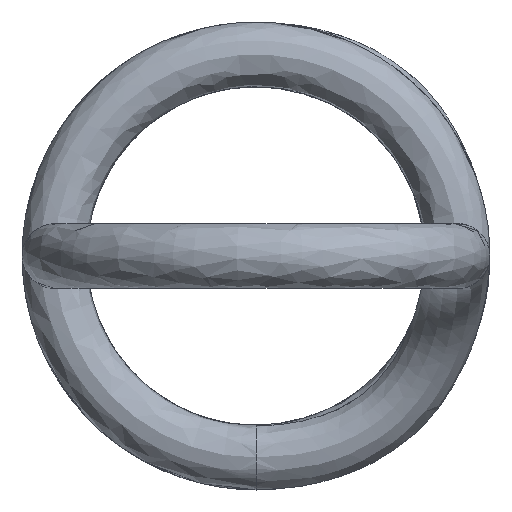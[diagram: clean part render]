
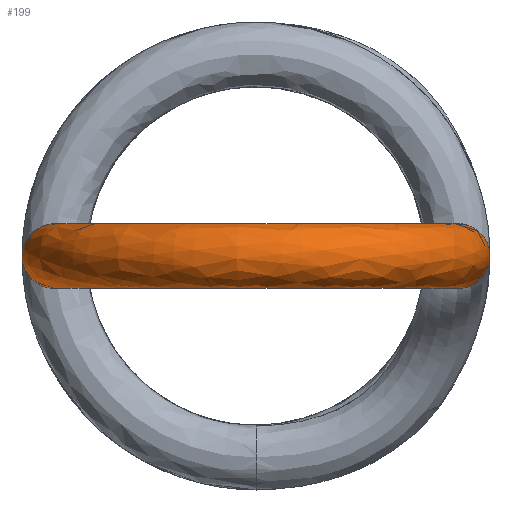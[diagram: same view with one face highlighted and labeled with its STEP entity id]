
A CAD part, front view. The second image highlights one B-rep face of the part: STEP entity #199.
In plain terms, the highlighted free-form (B-spline) face has degree [2, 2] with [9, 7] control points.
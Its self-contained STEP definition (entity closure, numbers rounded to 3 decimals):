
#15=(
BOUNDED_SURFACE()
B_SPLINE_SURFACE(2,2,((#828,#829,#830,#831,#832,#833,#834),(#835,#836,#837,
#838,#839,#840,#841),(#842,#843,#844,#845,#846,#847,#848),(#849,#850,#851,
#852,#853,#854,#855),(#856,#857,#858,#859,#860,#861,#862),(#863,#864,#865,
#866,#867,#868,#869),(#870,#871,#872,#873,#874,#875,#876),(#877,#878,#879,
#880,#881,#882,#883),(#884,#885,#886,#887,#888,#889,#890)),
 .UNSPECIFIED.,.T.,.F.,.F.)
B_SPLINE_SURFACE_WITH_KNOTS((3,2,2,2,3),(3,2,2,3),(0.,1.571,3.142,
4.712,6.283),(0.,1.101,2.202,
3.303),.UNSPECIFIED.)
GEOMETRIC_REPRESENTATION_ITEM()
RATIONAL_B_SPLINE_SURFACE(((1.,0.852,1.,0.852,1.,
0.852,1.),(0.707,0.603,0.707,
0.603,0.707,0.603,0.707),
(1.,0.852,1.,0.852,1.,0.852,1.),(0.707,
0.603,0.707,0.603,0.707,
0.603,0.707),(1.,0.852,1.,0.852,
1.,0.852,1.),(0.707,0.603,0.707,
0.603,0.707,0.603,0.707),
(1.,0.852,1.,0.852,1.,0.852,1.),(0.707,
0.603,0.707,0.603,0.707,
0.603,0.707),(1.,0.852,1.,0.852,
1.,0.852,1.)))
REPRESENTATION_ITEM('')
SURFACE()
);
#22=CIRCLE('',#234,1.25);
#23=CIRCLE('',#235,7.197);
#24=CIRCLE('',#236,1.25);
#37=FACE_OUTER_BOUND('',#48,.T.);
#48=EDGE_LOOP('',(#142,#143,#144,#145));
#85=VERTEX_POINT('',#759);
#88=VERTEX_POINT('',#891);
#106=EDGE_CURVE('',#85,#85,#22,.T.);
#109=EDGE_CURVE('',#85,#88,#23,.T.);
#110=EDGE_CURVE('',#88,#88,#24,.T.);
#142=ORIENTED_EDGE('',*,*,#106,.T.);
#143=ORIENTED_EDGE('',*,*,#109,.T.);
#144=ORIENTED_EDGE('',*,*,#110,.F.);
#145=ORIENTED_EDGE('',*,*,#109,.F.);
#199=ADVANCED_FACE('',(#37),#15,.T.);
#234=AXIS2_PLACEMENT_3D('',#770,#256,#257);
#235=AXIS2_PLACEMENT_3D('',#892,#258,#259);
#236=AXIS2_PLACEMENT_3D('',#893,#260,#261);
#256=DIRECTION('center_axis',(0.,-1.,0.));
#257=DIRECTION('ref_axis',(-0.443,0.,-0.897));
#258=DIRECTION('center_axis',(0.,0.,
-1.));
#259=DIRECTION('ref_axis',(1.,0.,0.));
#260=DIRECTION('center_axis',(0.161,0.987,0.));
#261=DIRECTION('ref_axis',(0.437,-0.071,-0.897));
#759=CARTESIAN_POINT('',(7.197,-27.55,-1.121));
#770=CARTESIAN_POINT('Origin',(7.75,-27.55,0.));
#828=CARTESIAN_POINT('Ctrl Pts',(7.197,-27.55,-1.121));
#829=CARTESIAN_POINT('Ctrl Pts',(7.197,-31.967,-1.121));
#830=CARTESIAN_POINT('Ctrl Pts',(3.258,-33.967,-1.121));
#831=CARTESIAN_POINT('Ctrl Pts',(-0.681,-35.967,-1.121));
#832=CARTESIAN_POINT('Ctrl Pts',(-4.247,-33.36,-1.121));
#833=CARTESIAN_POINT('Ctrl Pts',(-7.813,-30.753,-1.121));
#834=CARTESIAN_POINT('Ctrl Pts',(-7.103,-26.393,-1.121));
#835=CARTESIAN_POINT('Ctrl Pts',(8.318,-27.55,-1.674));
#836=CARTESIAN_POINT('Ctrl Pts',(8.318,-32.655,-1.674));
#837=CARTESIAN_POINT('Ctrl Pts',(3.765,-34.967,-1.674));
#838=CARTESIAN_POINT('Ctrl Pts',(-0.787,-37.278,-1.674));
#839=CARTESIAN_POINT('Ctrl Pts',(-4.909,-34.265,-1.674));
#840=CARTESIAN_POINT('Ctrl Pts',(-9.03,-31.252,-1.674));
#841=CARTESIAN_POINT('Ctrl Pts',(-8.21,-26.213,-1.674));
#842=CARTESIAN_POINT('Ctrl Pts',(8.871,-27.55,-0.553));
#843=CARTESIAN_POINT('Ctrl Pts',(8.871,-32.995,-0.553));
#844=CARTESIAN_POINT('Ctrl Pts',(4.016,-35.46,-0.553));
#845=CARTESIAN_POINT('Ctrl Pts',(-0.839,-37.925,-0.553));
#846=CARTESIAN_POINT('Ctrl Pts',(-5.235,-34.711,-0.553));
#847=CARTESIAN_POINT('Ctrl Pts',(-9.631,-31.498,-0.553));
#848=CARTESIAN_POINT('Ctrl Pts',(-8.756,-26.124,-0.553));
#849=CARTESIAN_POINT('Ctrl Pts',(9.424,-27.55,0.568));
#850=CARTESIAN_POINT('Ctrl Pts',(9.424,-33.335,0.568));
#851=CARTESIAN_POINT('Ctrl Pts',(4.266,-35.953,0.568));
#852=CARTESIAN_POINT('Ctrl Pts',(-0.892,-38.572,0.568));
#853=CARTESIAN_POINT('Ctrl Pts',(-5.562,-35.158,0.568));
#854=CARTESIAN_POINT('Ctrl Pts',(-10.232,-31.744,0.568));
#855=CARTESIAN_POINT('Ctrl Pts',(-9.302,-26.035,0.568));
#856=CARTESIAN_POINT('Ctrl Pts',(8.303,-27.55,1.121));
#857=CARTESIAN_POINT('Ctrl Pts',(8.303,-32.647,1.121));
#858=CARTESIAN_POINT('Ctrl Pts',(3.759,-34.954,1.121));
#859=CARTESIAN_POINT('Ctrl Pts',(-0.786,-37.261,1.121));
#860=CARTESIAN_POINT('Ctrl Pts',(-4.9,-34.253,1.121));
#861=CARTESIAN_POINT('Ctrl Pts',(-9.015,-31.245,1.121));
#862=CARTESIAN_POINT('Ctrl Pts',(-8.195,-26.215,1.121));
#863=CARTESIAN_POINT('Ctrl Pts',(7.182,-27.55,1.674));
#864=CARTESIAN_POINT('Ctrl Pts',(7.182,-31.959,1.674));
#865=CARTESIAN_POINT('Ctrl Pts',(3.251,-33.954,1.674));
#866=CARTESIAN_POINT('Ctrl Pts',(-0.68,-35.95,1.674));
#867=CARTESIAN_POINT('Ctrl Pts',(-4.239,-33.348,1.674));
#868=CARTESIAN_POINT('Ctrl Pts',(-7.798,-30.747,1.674));
#869=CARTESIAN_POINT('Ctrl Pts',(-7.089,-26.395,1.674));
#870=CARTESIAN_POINT('Ctrl Pts',(6.629,-27.55,0.553));
#871=CARTESIAN_POINT('Ctrl Pts',(6.629,-31.619,0.553));
#872=CARTESIAN_POINT('Ctrl Pts',(3.001,-33.461,0.553));
#873=CARTESIAN_POINT('Ctrl Pts',(-0.627,-35.303,0.553));
#874=CARTESIAN_POINT('Ctrl Pts',(-3.912,-32.902,0.553));
#875=CARTESIAN_POINT('Ctrl Pts',(-7.197,-30.5,0.553));
#876=CARTESIAN_POINT('Ctrl Pts',(-6.543,-26.484,0.553));
#877=CARTESIAN_POINT('Ctrl Pts',(6.076,-27.55,-0.568));
#878=CARTESIAN_POINT('Ctrl Pts',(6.076,-31.279,-0.568));
#879=CARTESIAN_POINT('Ctrl Pts',(2.75,-32.968,-0.568));
#880=CARTESIAN_POINT('Ctrl Pts',(-0.575,-34.656,-0.568));
#881=CARTESIAN_POINT('Ctrl Pts',(-3.586,-32.455,-0.568));
#882=CARTESIAN_POINT('Ctrl Pts',(-6.596,-30.254,-0.568));
#883=CARTESIAN_POINT('Ctrl Pts',(-5.997,-26.573,-0.568));
#884=CARTESIAN_POINT('Ctrl Pts',(7.197,-27.55,-1.121));
#885=CARTESIAN_POINT('Ctrl Pts',(7.197,-31.967,-1.121));
#886=CARTESIAN_POINT('Ctrl Pts',(3.258,-33.967,-1.121));
#887=CARTESIAN_POINT('Ctrl Pts',(-0.681,-35.967,-1.121));
#888=CARTESIAN_POINT('Ctrl Pts',(-4.247,-33.36,-1.121));
#889=CARTESIAN_POINT('Ctrl Pts',(-7.813,-30.753,-1.121));
#890=CARTESIAN_POINT('Ctrl Pts',(-7.103,-26.393,-1.121));
#891=CARTESIAN_POINT('',(-7.103,-26.393,-1.121));
#892=CARTESIAN_POINT('Origin',(0.,-27.55,-1.121));
#893=CARTESIAN_POINT('Origin',(-7.649,-26.304,0.));
